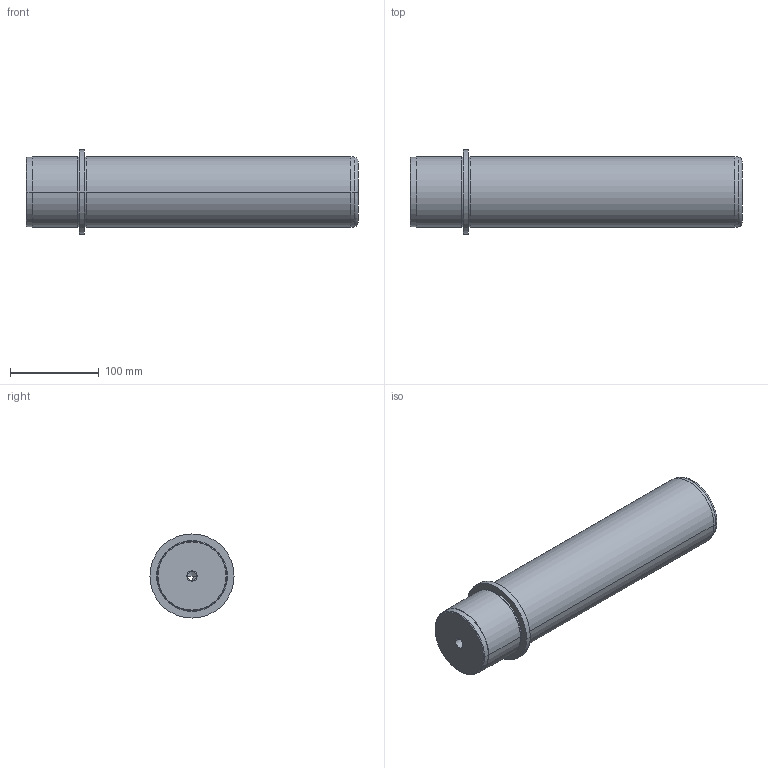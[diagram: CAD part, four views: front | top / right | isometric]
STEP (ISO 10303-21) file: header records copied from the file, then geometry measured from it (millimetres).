
FILE_DESCRIPTION( ( 'STEP AP203' ), '1' );
FILE_NAME( 'D:/Delta 3 D/D00/D00 - 80x315x60.step', '2003-01-02T07:35:34', ( ' ' ), ( ' ' ), 'XStep 1.0', ' ', ' ' );
FILE_SCHEMA( ( 'CONFIG_CONTROL_DESIGN' ) );
Length unit declared in the file: metre
Products named in the file (1): 1
Bounding box: 375 x 95 x 95 mm (x, y, z)
Volume: 1886153 mm3; surface area: 110890 mm2
Topology: 1 solids, 1 shells, 39 faces, 80 edges, 48 vertices
Faces by surface type: revolution 28, bspline 11
Entity records: 1137 total; most frequent: CARTESIAN_POINT 277, DIRECTION 154, ORIENTED_EDGE 152, EDGE_CURVE 76, AXIS2_PLACEMENT_3D 49, EDGE_LOOP 48, VERTEX_POINT 48, CIRCLE 48
